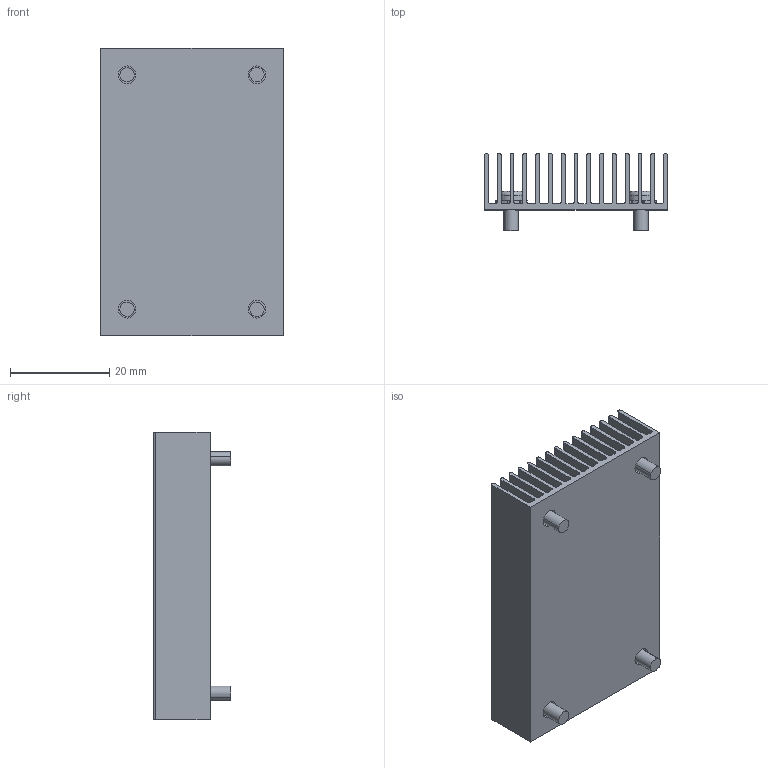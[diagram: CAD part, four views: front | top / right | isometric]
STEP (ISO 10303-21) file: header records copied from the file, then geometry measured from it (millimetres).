
FILE_DESCRIPTION (( 'STEP AP214' ), '1' );
FILE_NAME ('HS1568EBK06.STEP', '2023-03-03T15:53:42', ( '' ), ( '' ), 'SwSTEP 2.0', 'SolidWorks 2020', '' );
FILE_SCHEMA (( 'AUTOMOTIVE_DESIGN' ));
Length unit declared in the file: millimetre
Products named in the file (1): HS1568EBK06
Bounding box: 36.83 x 15.53 x 57.91 mm (x, y, z)
Volume: 9257.1 mm3; surface area: 21555.6 mm2
Topology: 5 solids, 5 shells, 534 faces, 1400 edges, 888 vertices
Faces by surface type: plane 371, cylinder 155, torus 8
Entity records: 23980 total; most frequent: CARTESIAN_POINT 4789, ORIENTED_EDGE 2800, DIRECTION 2700, EDGE_CURVE 1400, VECTOR 1026, LINE 1026, VERTEX_POINT 888, AXIS2_PLACEMENT_3D 837
